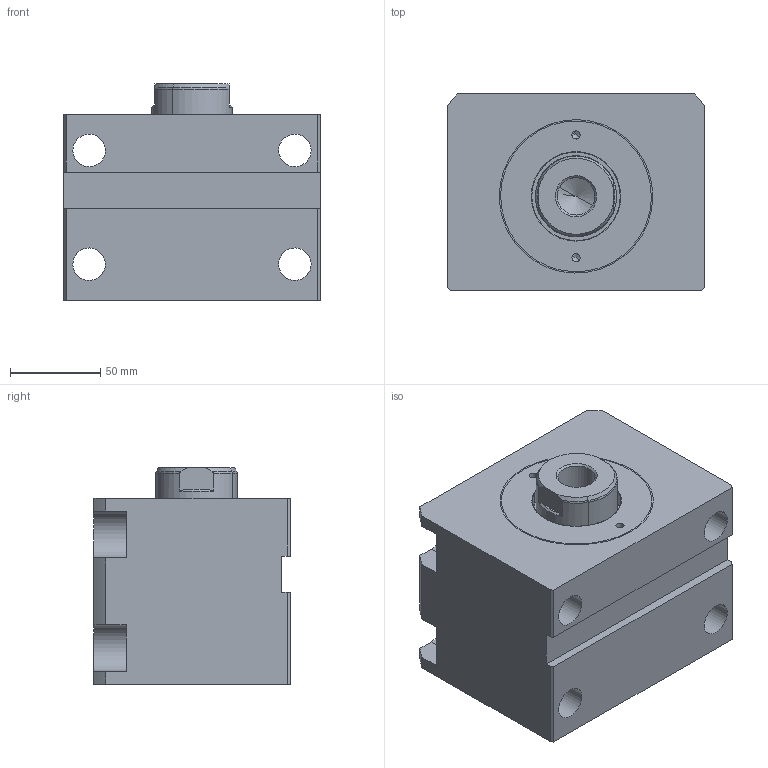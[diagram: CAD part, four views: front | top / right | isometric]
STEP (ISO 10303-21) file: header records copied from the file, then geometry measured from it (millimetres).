
FILE_DESCRIPTION(('CATIA V5 STEP Exchange'),'2;1');
FILE_NAME('\\kjf-102\KJF_TC\Hydraulic_Clamp\Standard\BLOCK_CLAMP\BDx-80xx\BDH-8025_-.stp','2025-10-29T01:19:36+00:00',('none'),('none'),'CATIA Version 5 Release 19 SP 6 (IN-10)','CATIA V5 STEP AP203','none');
FILE_SCHEMA(('CONFIG_CONTROL_DESIGN'));
Length unit declared in the file: millimetre
Products named in the file (1): BDH-80xx_-
Assembly tree (3 placements, depth 2):
  BDH-80xx_-
    #58
    #1720
    #2410
Bounding box: 142 x 109 x 120 mm (x, y, z)
Volume: 1268066.4 mm3; surface area: 168234.2 mm2
Topology: 3 solids, 3 shells, 108 faces, 272 edges, 169 vertices
Faces by surface type: cylinder 46, plane 34, cone 20, torus 8
Entity records: 3013 total; most frequent: CARTESIAN_POINT 574, ORIENTED_EDGE 524, DIRECTION 384, EDGE_CURVE 262, AXIS2_PLACEMENT_3D 187, VERTEX_POINT 169, VECTOR 130, LINE 130
